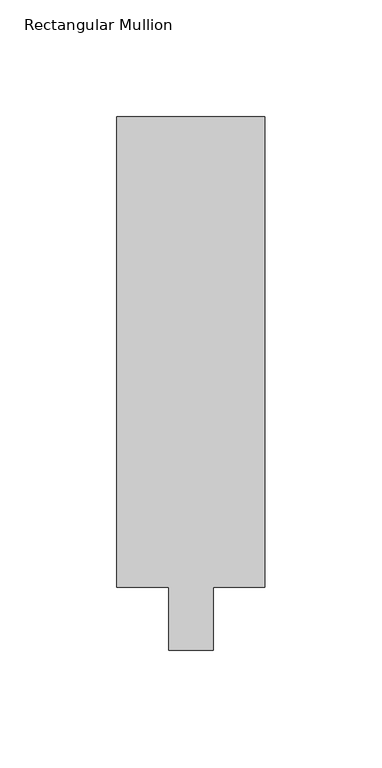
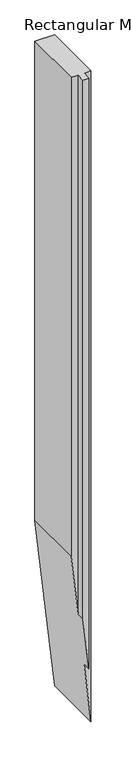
"""IFC4 building model written with IfcOpenShell, lengths in millimetres: member geometry."""

from ifc_helpers import new_model, si_unit, origin, place, context, project, spatial, faceted_brep, source, transform, mapped, element, save


def rectangular_mullion_9168f299(model_context):
    return source(origin(), model_context, "Body", "Brep", [
        faceted_brep([(-63.5, 228.6, 0.0), (-63.5, 26.9875, 0.0), (-41.275, 26.9875, 0.0), (-41.275, 0.0, 0.0), (-22.225, 0.0, 0.0), (-22.225, 26.9875, 0.0), (0.0, 26.9875, 0.0), (0.0, 228.6, 0.0), (-63.5, 228.6, -1624.3821982), (-63.5, 26.9875, -1624.3821982), (-41.275, 26.9875, -1828.9604878), (-41.275, 0.0, -1828.9604878), (-22.225, 0.0, -2004.3133076), (-22.225, 26.9875, -2004.3133076), (0.0, 26.9875, -2208.8915972), (0.0, 228.6, -2208.8915972)], [[[0, 1, 2, 3, 4, 5, 6, 7]], [[1, 0, 8, 9]], [[2, 1, 9, 10]], [[3, 2, 10, 11]], [[4, 3, 11, 12]], [[5, 4, 12, 13]], [[6, 5, 13, 14]], [[7, 6, 14, 15]], [[0, 7, 15, 8]], [[8, 15, 14, 13, 12, 11, 10, 9]]]),
    ])


if __name__ == "__main__":
    model = new_model("IFC4")
    model_context = context("Model", 3, world=origin())
    ifc_project = project(units=[si_unit("LENGTHUNIT", "METRE", prefix="MILLI")], contexts=[model_context])
    site = spatial("IfcSite", under=ifc_project)
    building = spatial("IfcBuilding", under=site)
    placement = place(None, origin())
    rectangular_mullion_shape = rectangular_mullion_9168f299(model_context)
    element("IfcMember", 1, ObjectType="Rectangular Mullion : 2 1/2\" x 8\" - Capless", at=placement, inside=building, context=model_context, shape_type="MappedRepresentation", body=[
        mapped(rectangular_mullion_shape, transform((0.0, 0.0, 0.0), x_axis=(1.0, 0.0, 0.0), y_axis=(0.0, 1.0, 0.0), z_axis=(0.0, 0.0, 1.0))),
    ])
    save(model, "model.ifc")
